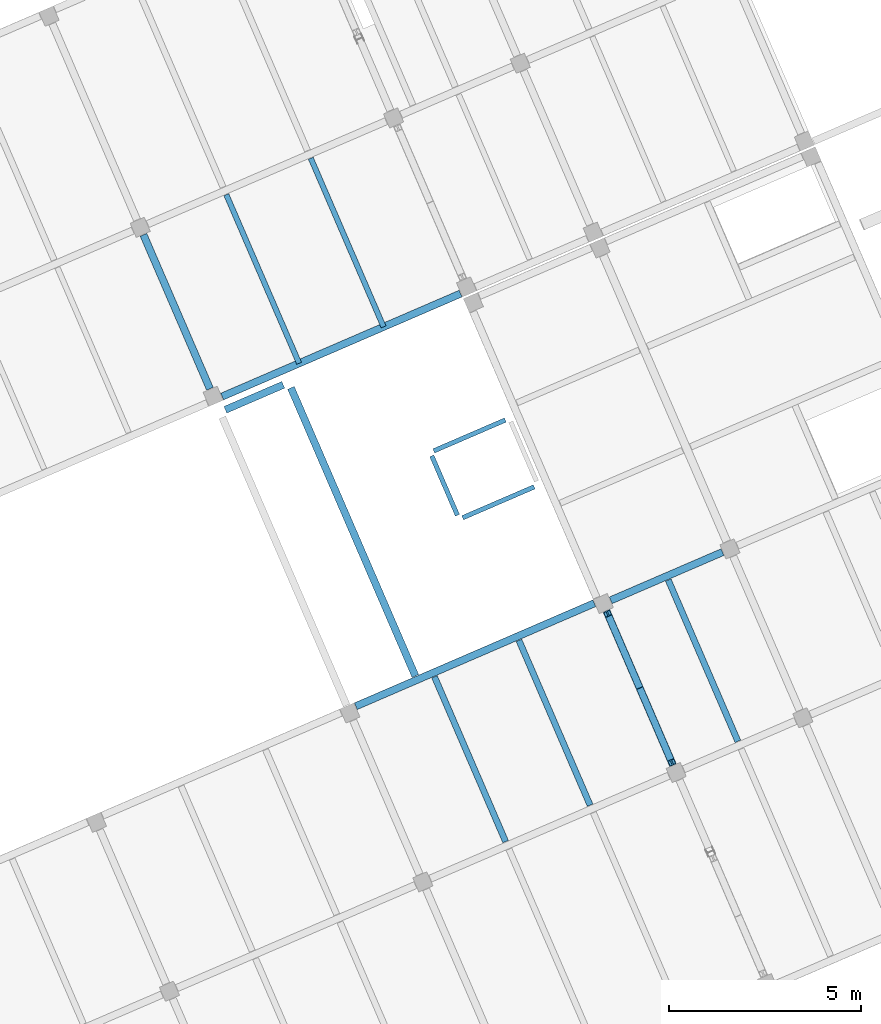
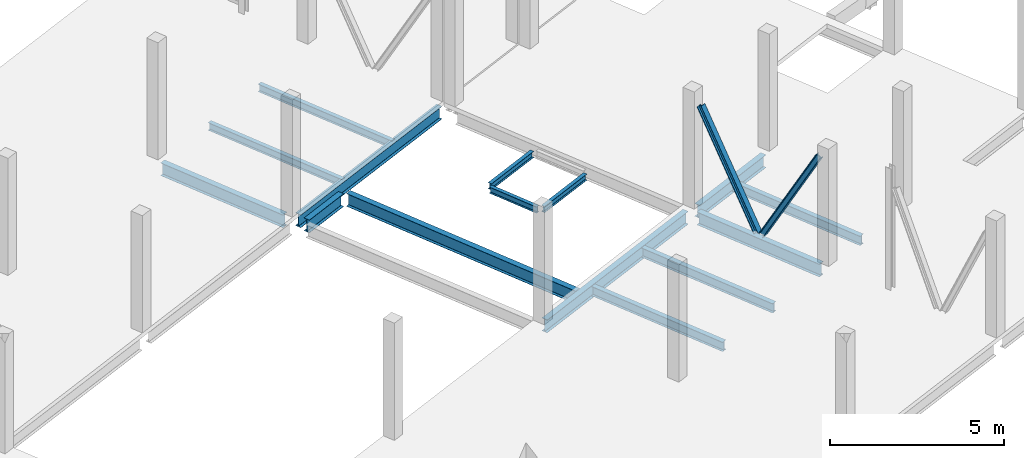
# One storey, part 11 of 24: 15 beams, 2 members.
"""IFC4 building model written with IfcOpenShell, lengths in metres."""

from ifc_helpers import new_model, entity, si_unit, converted_unit, derived_unit, direction, frame, origin, place, context, subcontext, project, spatial, line, arc, indexed_curve, outline, extrude, source, transform, mapped, material, type_object, type_shapes, element, save


model = new_model("IFC4")

# Units and contexts
model_context = context("Model", 3, precision=1e-05, world=origin(), true_north=direction((6.12323399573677e-17, 1.0)))
body_context = subcontext(model_context, "Body", "Model", "MODEL_VIEW")
ifc_project = project(units=[si_unit("LENGTHUNIT", "METRE"), si_unit("AREAUNIT", "SQUARE_METRE"), si_unit("VOLUMEUNIT", "CUBIC_METRE"), converted_unit("PLANEANGLEUNIT", "DEGREE", entity("IfcPlaneAngleMeasure", 0.0174532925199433), si_unit("PLANEANGLEUNIT", "RADIAN"), dimensions=[0, 0, 0, 0, 0, 0, 0]), si_unit("MASSUNIT", "GRAM", prefix="KILO"), derived_unit("MOMENTOFINERTIAUNIT", [(si_unit("LENGTHUNIT", "METRE"), 4)]), derived_unit("LINEARFORCEUNIT", [(si_unit("MASSUNIT", "GRAM", prefix="KILO"), 1), (si_unit("TIMEUNIT", "SECOND"), -2)]), derived_unit("WARPINGCONSTANTUNIT", [(si_unit("LENGTHUNIT", "METRE"), 6)]), derived_unit("THERMALTRANSMITTANCEUNIT", [(si_unit("MASSUNIT", "GRAM", prefix="KILO"), 1), (si_unit("THERMODYNAMICTEMPERATUREUNIT", "KELVIN"), -1), (si_unit("TIMEUNIT", "SECOND"), -3)]), derived_unit("USERDEFINED", [(si_unit("MASSUNIT", "GRAM", prefix="KILO"), 1), (si_unit("TIMEUNIT", "SECOND"), -2), (si_unit("THERMODYNAMICTEMPERATUREUNIT", "KELVIN"), -1)]), derived_unit("THERMALRESISTANCEUNIT", [(si_unit("MASSUNIT", "GRAM", prefix="KILO"), -1), (si_unit("TIMEUNIT", "SECOND"), 3), (si_unit("THERMODYNAMICTEMPERATUREUNIT", "KELVIN"), 1)])], contexts=[model_context])

# Site, building, storey
site_placement = place(None, origin())
site = spatial("IfcSite", under=ifc_project, at=site_placement, Name="Default", CompositionType="ELEMENT")
building_placement = place(site_placement, frame((12.6613425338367, -82.5732315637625, 317.15), z_axis=(0.0, 0.0, 1.0), x_axis=(-0.396377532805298, 0.918087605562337, 0.0)))
building = spatial("IfcBuilding", under=site, at=building_placement, Name="CESFAM Coyhaique", CompositionType="ELEMENT")
storey_placement = place(building_placement, frame((0.0, 0.0, 4.20000000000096)))
storey = spatial("IfcBuildingStorey", under=building, at=storey_placement, Name="Nivel 2", CompositionType="ELEMENT", Elevation=4.20000000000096)

# Beams
ifc_material = material(Name="Steel, 45-345", Category="Metal")
beam_type_1 = type_object("IfcBeamType", Name="M_W Shapes:W450X190mm", PredefinedType="BEAM", material=ifc_material)
shared_shape_1 = source(origin(), body_context, "Body", "SweptSolid", [
    extrude(outline(indexed_curve([(-0.225, -0.0950000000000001), (-0.215350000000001, -0.0949999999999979), (-0.21535, -0.0105699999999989), (-0.213109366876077, -0.00516063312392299), (-0.2077, -0.00291999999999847), (0.207699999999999, -0.00291999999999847), (0.213109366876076, -0.00516063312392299), (0.215349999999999, -0.0105699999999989), (0.215349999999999, -0.0950000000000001), (0.225, -0.0950000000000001), (0.225, 0.0950000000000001), (0.215349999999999, 0.0950000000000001), (0.215349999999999, 0.0105700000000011), (0.213109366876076, 0.00516063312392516), (0.207699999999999, 0.00292000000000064), (-0.2077, 0.00292000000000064), (-0.213109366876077, 0.00516063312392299), (-0.215350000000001, 0.0105700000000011), (-0.215350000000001, 0.0950000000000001), (-0.225, 0.0950000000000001)], segments=[line(1, 2, 3), arc(3, 4, 5), line(5, 6), arc(6, 7, 8), line(8, 9, 10, 11, 12, 13), arc(13, 14, 15), line(15, 16), arc(16, 17, 18), line(18, 19, 20, 1)], self_intersect=False)), frame((10.3815534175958, -11.5971495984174, 3.82500000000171), z_axis=(1.0, 0.0, 0.0), x_axis=(0.0, 0.0, -1.0)), (0.0, 0.0, 1.0), 4.3746),
])
type_shapes(beam_type_1, [shared_shape_1])
beam_1_placement = place(storey_placement, frame((0.0, 0.0, -4.20000000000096)))
element("IfcBeam", 1, at=beam_1_placement, inside=storey, type_object=beam_type_1, Name="M_W Shapes:W450X190mm", ObjectType="M_W Shapes:W450X190mm", PredefinedType="BEAM", context=body_context, shape_type="MappedRepresentation", body=[
    mapped(shared_shape_1, transform((0.0, 0.0, 0.0), scale=1.0)),
])
beam_type_2 = type_object("IfcBeamType", Name="M_W Shapes:W450X190mm", PredefinedType="BEAM", material=ifc_material)
shared_shape_2 = source(origin(), body_context, "Body", "SweptSolid", [
    extrude(outline(indexed_curve([(-0.225, -0.0950000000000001), (-0.215350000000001, -0.0950000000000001), (-0.21535, -0.01057), (-0.213109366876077, -0.00516063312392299), (-0.2077, -0.00291999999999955), (0.207699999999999, -0.00292000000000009), (0.213109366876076, -0.00516063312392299), (0.215349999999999, -0.01057), (0.215349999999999, -0.0950000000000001), (0.225, -0.0950000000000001), (0.225, 0.0950000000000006), (0.215349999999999, 0.0950000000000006), (0.215349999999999, 0.0105700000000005), (0.213109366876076, 0.00516063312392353), (0.207699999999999, 0.00292000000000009), (-0.2077, 0.00292000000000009), (-0.213109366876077, 0.00516063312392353), (-0.215350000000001, 0.0105700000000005), (-0.215350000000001, 0.0949999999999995), (-0.225, 0.0950000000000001)], segments=[line(1, 2, 3), arc(3, 4, 5), line(5, 6), arc(6, 7, 8), line(8, 9, 10, 11, 12, 13), arc(13, 14, 15), line(15, 16), arc(16, 17, 18), line(18, 19, 20, 1)], self_intersect=False)), frame((24.1815534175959, -4.39714959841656, 3.82500000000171), z_axis=(1.0, 0.0, 0.0), x_axis=(0.0, 0.0, -1.0)), (0.0, 0.0, 1.0), 4.3746),
])
type_shapes(beam_type_2, [shared_shape_2])
beam_2_placement = place(storey_placement, frame((0.0, 0.0, -4.20000000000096)))
element("IfcBeam", 2, at=beam_2_placement, inside=storey, type_object=beam_type_2, Name="M_W Shapes:W450X190mm", ObjectType="M_W Shapes:W450X190mm", PredefinedType="BEAM", context=body_context, shape_type="MappedRepresentation", body=[
    mapped(shared_shape_2, transform((0.0, 0.0, 0.0), scale=1.0)),
])
beam_type_3 = type_object("IfcBeamType", Name="M_W Shapes:W450X190mm", PredefinedType="BEAM", material=ifc_material)
shared_shape_3 = source(origin(), body_context, "Body", "SweptSolid", [
    extrude(outline(indexed_curve([(-0.0950000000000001, -0.225000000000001), (0.0950000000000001, -0.225000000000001), (0.0950000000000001, -0.21535), (0.0105700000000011, -0.21535), (0.00516063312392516, -0.213109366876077), (0.00292000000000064, -0.2077), (0.00292000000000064, 0.207699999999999), (0.00516063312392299, 0.213109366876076), (0.0105700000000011, 0.21535), (0.0950000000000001, 0.21535), (0.0950000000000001, 0.224999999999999), (-0.0950000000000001, 0.224999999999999), (-0.0949999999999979, 0.21535), (-0.0105699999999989, 0.215349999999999), (-0.00516063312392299, 0.213109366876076), (-0.00291999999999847, 0.207699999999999), (-0.00291999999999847, -0.2077), (-0.00516063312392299, -0.213109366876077), (-0.0105699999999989, -0.21535), (-0.0950000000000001, -0.21535)], segments=[line(1, 2, 3, 4), arc(4, 5, 6), line(6, 7), arc(7, 8, 9), line(9, 10, 11, 12, 13, 14), arc(14, 15, 16), line(16, 17), arc(17, 18, 19), line(19, 20, 1)], self_intersect=False)), frame((15.0688534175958, -11.384449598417, 3.82500000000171), z_axis=(0.0, 1.0, 0.0), x_axis=(-1.0, 0.0, 0.0)), (0.0, 0.0, 1.0), 6.7746),
])
type_shapes(beam_type_3, [shared_shape_3])
beam_3_placement = place(storey_placement, frame((0.0, 0.0, -4.20000000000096)))
element("IfcBeam", 3, at=beam_3_placement, inside=storey, type_object=beam_type_3, Name="M_W Shapes:W450X190mm", ObjectType="M_W Shapes:W450X190mm", PredefinedType="BEAM", context=body_context, shape_type="MappedRepresentation", body=[
    mapped(shared_shape_3, transform((0.0, 0.0, 0.0), scale=1.0)),
])
beam_type_4 = type_object("IfcBeamType", Name="M_W Shapes:W450X190mm", PredefinedType="BEAM", material=ifc_material)
shared_shape_4 = source(origin(), body_context, "Body", "SweptSolid", [
    extrude(outline(indexed_curve([(-0.0950000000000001, -0.225000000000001), (0.0950000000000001, -0.225000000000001), (0.0950000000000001, -0.21535), (0.0105699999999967, -0.21535), (0.00516063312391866, -0.213109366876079), (0.00291999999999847, -0.2077), (0.00291999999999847, 0.207699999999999), (0.00516063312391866, 0.213109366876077), (0.0105700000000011, 0.21535), (0.0950000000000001, 0.21535), (0.0950000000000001, 0.224999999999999), (-0.0950000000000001, 0.224999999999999), (-0.0950000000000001, 0.21535), (-0.0105700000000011, 0.215349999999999), (-0.00516063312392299, 0.213109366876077), (-0.0029200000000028, 0.207699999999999), (-0.0029200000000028, -0.2077), (-0.00516063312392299, -0.213109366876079), (-0.0105700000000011, -0.21535), (-0.0950000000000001, -0.21535)], segments=[line(1, 2, 3, 4), arc(4, 5, 6), line(6, 7), arc(7, 8, 9), line(9, 10, 11, 12, 13, 14), arc(14, 15, 16), line(16, 17), arc(17, 18, 19), line(19, 20, 1)], self_intersect=False)), frame((23.8688534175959, -11.384449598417, 3.82500000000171), z_axis=(0.0, 1.0, 0.0), x_axis=(-1.0, 0.0, 0.0)), (0.0, 0.0, 1.0), 6.7746),
])
type_shapes(beam_type_4, [shared_shape_4])
beam_4_placement = place(storey_placement, frame((0.0, 0.0, -4.20000000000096)))
element("IfcBeam", 4, at=beam_4_placement, inside=storey, type_object=beam_type_4, Name="M_W Shapes:W450X190mm", ObjectType="M_W Shapes:W450X190mm", PredefinedType="BEAM", context=body_context, shape_type="MappedRepresentation", body=[
    mapped(shared_shape_4, transform((0.0, 0.0, 0.0), scale=1.0)),
])
beam_type_5 = type_object("IfcBeamType", Name="M_W Shapes:W450X190mm", PredefinedType="BEAM", material=ifc_material)
shared_shape_5 = source(origin(), body_context, "Body", "SweptSolid", [
    extrude(outline(indexed_curve([(-0.0950000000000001, -0.225000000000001), (0.0950000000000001, -0.225000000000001), (0.0950000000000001, -0.21535), (0.0105700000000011, -0.21535), (0.00516063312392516, -0.213109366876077), (0.00292000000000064, -0.2077), (0.00292000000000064, 0.207699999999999), (0.00516063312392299, 0.213109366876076), (0.0105700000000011, 0.21535), (0.0950000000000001, 0.21535), (0.0950000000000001, 0.224999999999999), (-0.0950000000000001, 0.224999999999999), (-0.0949999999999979, 0.21535), (-0.0105699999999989, 0.215349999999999), (-0.00516063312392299, 0.213109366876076), (-0.00291999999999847, 0.207699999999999), (-0.00291999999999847, -0.2077), (-0.00516063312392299, -0.213109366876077), (-0.0105699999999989, -0.21535), (-0.0950000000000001, -0.21535)], segments=[line(1, 2, 3, 4), arc(4, 5, 6), line(6, 7), arc(7, 8, 9), line(9, 10, 11, 12, 13, 14), arc(14, 15, 16), line(16, 17), arc(17, 18, 19), line(19, 20, 1)], self_intersect=False)), frame((14.9688534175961, -14.9844495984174, 3.82500000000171), z_axis=(0.0, 1.0, 0.0), x_axis=(-1.0, 0.0, 0.0)), (0.0, 0.0, 1.0), 3.1746),
])
type_shapes(beam_type_5, [shared_shape_5])
beam_5_placement = place(storey_placement, frame((0.0, 0.0, -4.20000000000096)))
element("IfcBeam", 5, at=beam_5_placement, inside=storey, type_object=beam_type_5, Name="M_W Shapes:W450X190mm", ObjectType="M_W Shapes:W450X190mm", PredefinedType="BEAM", context=body_context, shape_type="MappedRepresentation", body=[
    mapped(shared_shape_5, transform((0.0, 0.0, 0.0), scale=1.0)),
])

# Members
member_type_1 = type_object("IfcMemberType", Name="M_Double C-Channel:doble T HEB 180", PredefinedType="BRACE", material=ifc_material)
shared_shape_6 = source(origin(), body_context, "Body", "SweptSolid", [
    extrude(outline(indexed_curve([(-0.045425, -0.0899999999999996), (0.0445749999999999, -0.0899999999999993), (0.0397422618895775, -0.0783327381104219), (0.0280749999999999, -0.0735000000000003), (-0.0272249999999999, -0.0647413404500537), (-0.0272249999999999, 0.0647413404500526), (0.0280750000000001, 0.0734999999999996), (0.0397422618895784, 0.078332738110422), (0.044575, 0.0900000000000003), (-0.045425, 0.0900000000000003)], segments=[line(1, 2), arc(2, 3, 4), line(4, 5, 6, 7), arc(7, 8, 9), line(9, 10, 1)], self_intersect=False)), frame((-2.4277149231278, -0.0454249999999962, 0.0), z_axis=(1.0, 0.0, 0.0), x_axis=(0.0, -1.0, 0.0)), (0.0, 0.0, 1.0), 4.1299440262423),
    extrude(outline(indexed_curve([(-0.0899999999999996, -0.045425), (0.0900000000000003, -0.045425), (0.0900000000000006, 0.044575), (0.0783327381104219, 0.0397422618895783), (0.0734999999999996, 0.028075), (0.0647413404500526, -0.0272249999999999), (-0.0647413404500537, -0.0272249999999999), (-0.0735000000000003, 0.0280749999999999), (-0.0783327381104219, 0.0397422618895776), (-0.0899999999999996, 0.0445749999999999)], segments=[line(1, 2, 3), arc(3, 4, 5), line(5, 6, 7, 8), arc(8, 9, 10), line(10, 1)], self_intersect=False)), frame((-2.4277149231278, 0.0454250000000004, 0.0), z_axis=(1.0, 0.0, 0.0), x_axis=(0.0, 0.0, -1.0)), (0.0, 0.0, 1.0), 4.1299440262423),
])
type_shapes(member_type_1, [shared_shape_6])
member_1_placement = place(storey_placement, frame((11.2904855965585, -11.5971495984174, 2.0807452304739), z_axis=(0.87075356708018, 0.0, 0.491719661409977), x_axis=(-0.491719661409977, 0.0, 0.87075356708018)))
element("IfcMember", 6, at=member_1_placement, inside=storey, type_object=member_type_1, Name="M_Double C-Channel:doble T HEB 180", ObjectType="M_Double C-Channel:doble T HEB 180", PredefinedType="BRACE", context=body_context, shape_type="MappedRepresentation", body=[
    mapped(shared_shape_6, transform((0.0, 0.0, 0.0), scale=1.0)),
])
member_type_2 = type_object("IfcMemberType", Name="M_Double C-Channel:doble T HEB 180", PredefinedType="BRACE", material=ifc_material)
shared_shape_7 = source(origin(), body_context, "Body", "SweptSolid", [
    extrude(outline(indexed_curve([(-0.0899999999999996, -0.045425), (0.0900000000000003, -0.045425), (0.0900000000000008, 0.044575), (0.078332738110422, 0.0397422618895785), (0.0734999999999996, 0.028075), (0.0647413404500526, -0.0272249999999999), (-0.0647413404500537, -0.0272249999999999), (-0.0735000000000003, 0.0280749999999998), (-0.0783327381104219, 0.0397422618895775), (-0.0899999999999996, 0.0445749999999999)], segments=[line(1, 2, 3), arc(3, 4, 5), line(5, 6, 7, 8), arc(8, 9, 10), line(10, 1)], self_intersect=False)), frame((-2.42771492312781, 0.0454249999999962, 0.0), z_axis=(1.0, 0.0, 0.0), x_axis=(0.0, 0.0, -1.0)), (0.0, 0.0, 1.0), 4.1299440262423),
    extrude(outline(indexed_curve([(-0.045425, -0.0899999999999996), (0.0445749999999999, -0.0899999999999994), (0.0397422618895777, -0.078332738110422), (0.0280749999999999, -0.0735000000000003), (-0.0272249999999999, -0.0647413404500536), (-0.0272249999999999, 0.0647413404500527), (0.0280749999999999, 0.0734999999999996), (0.0397422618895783, 0.0783327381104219), (0.044575, 0.0900000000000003), (-0.045425, 0.0900000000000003)], segments=[line(1, 2), arc(2, 3, 4), line(4, 5, 6, 7), arc(7, 8, 9), line(9, 10, 1)], self_intersect=False)), frame((-2.42771492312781, -0.0454250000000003, 0.0), z_axis=(1.0, 0.0, 0.0), x_axis=(0.0, -1.0, 0.0)), (0.0, 0.0, 1.0), 4.1299440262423),
])
type_shapes(member_type_2, [shared_shape_7])
member_2_placement = place(storey_placement, frame((13.847221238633, -11.5971495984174, 2.0807452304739), z_axis=(-0.870753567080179, 0.0, 0.491719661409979), x_axis=(0.491719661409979, 0.0, 0.870753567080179)))
element("IfcMember", 7, at=member_2_placement, inside=storey, type_object=member_type_2, Name="M_Double C-Channel:doble T HEB 180", ObjectType="M_Double C-Channel:doble T HEB 180", PredefinedType="BRACE", context=body_context, shape_type="MappedRepresentation", body=[
    mapped(shared_shape_7, transform((0.0, 0.0, 0.0), scale=1.0)),
])

# Beams
beam_type_6 = type_object("IfcBeamType", Name="M_W Shapes:W330X160mm", PredefinedType="BEAM", material=ifc_material)
shared_shape_8 = source(origin(), body_context, "Body", "SweptSolid", [
    extrude(outline(indexed_curve([(-0.164999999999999, -0.0799999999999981), (-0.15535, -0.0799999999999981), (-0.15535, -0.0105699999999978), (-0.153109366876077, -0.00516063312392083), (-0.1477, -0.00291999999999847), (0.1477, -0.00291999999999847), (0.153109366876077, -0.00516063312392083), (0.15535, -0.0105699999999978), (0.15535, -0.0799999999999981), (0.165, -0.0799999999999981), (0.165000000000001, 0.0800000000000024), (0.15535, 0.0800000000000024), (0.15535, 0.0105700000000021), (0.153109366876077, 0.00516063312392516), (0.1477, 0.00292000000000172), (-0.1477, 0.0029200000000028), (-0.153109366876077, 0.00516063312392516), (-0.15535, 0.0105700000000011), (-0.15535, 0.0800000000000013), (-0.164999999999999, 0.0800000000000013)], segments=[line(1, 2, 3), arc(3, 4, 5), line(5, 6), arc(6, 7, 8), line(8, 9, 10, 11, 12, 13), arc(13, 14, 15), line(15, 16), arc(16, 17, 18), line(18, 19, 20, 1)], self_intersect=False)), frame((10.2765534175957, -6.7971495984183, 3.88500000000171), z_axis=(1.0, 0.0, 0.0), x_axis=(0.0, 0.0, -1.0)), (0.0, 0.0, 1.0), 4.6846),
])
type_shapes(beam_type_6, [shared_shape_8])
beam_6_placement = place(storey_placement, frame((0.0, 0.0, -4.20000000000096)))
element("IfcBeam", 8, at=beam_6_placement, inside=storey, type_object=beam_type_6, Name="M_W Shapes:W330X160mm", ObjectType="M_W Shapes:W330X160mm", PredefinedType="BEAM", context=body_context, shape_type="MappedRepresentation", body=[
    mapped(shared_shape_8, transform((0.0, 0.0, 0.0), scale=1.0)),
])
beam_type_7 = type_object("IfcBeamType", Name="M_W Shapes:W330X160mm", PredefinedType="BEAM", material=ifc_material)
shared_shape_9 = source(origin(), body_context, "Body", "SweptSolid", [
    extrude(outline(indexed_curve([(-0.164999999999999, -0.0800000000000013), (-0.15535, -0.0800000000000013), (-0.15535, -0.0105700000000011), (-0.153109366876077, -0.00516063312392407), (-0.1477, -0.00292000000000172), (0.1477, -0.00292000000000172), (0.153109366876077, -0.00516063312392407), (0.15535, -0.0105700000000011), (0.15535, -0.0800000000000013), (0.165, -0.0800000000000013), (0.165000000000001, 0.0799999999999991), (0.15535, 0.0799999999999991), (0.15535, 0.0105699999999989), (0.153109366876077, 0.00516063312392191), (0.1477, 0.00291999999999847), (-0.1477, 0.00291999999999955), (-0.153109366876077, 0.00516063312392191), (-0.15535, 0.0105699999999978), (-0.15535, 0.0799999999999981), (-0.164999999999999, 0.0799999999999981)], segments=[line(1, 2, 3), arc(3, 4, 5), line(5, 6), arc(6, 7, 8), line(8, 9, 10, 11, 12, 13), arc(13, 14, 15), line(15, 16), arc(16, 17, 18), line(18, 19, 20, 1)], self_intersect=False)), frame((10.2765534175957, -9.19714959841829, 3.88500000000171), z_axis=(1.0, 0.0, 0.0), x_axis=(0.0, 0.0, -1.0)), (0.0, 0.0, 1.0), 4.6846),
])
type_shapes(beam_type_7, [shared_shape_9])
beam_7_placement = place(storey_placement, frame((0.0, 0.0, -4.20000000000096)))
element("IfcBeam", 9, at=beam_7_placement, inside=storey, type_object=beam_type_7, Name="M_W Shapes:W330X160mm", ObjectType="M_W Shapes:W330X160mm", PredefinedType="BEAM", context=body_context, shape_type="MappedRepresentation", body=[
    mapped(shared_shape_9, transform((0.0, 0.0, 0.0), scale=1.0)),
])
beam_type_8 = type_object("IfcBeamType", Name="M_W Shapes:W330X160mm", PredefinedType="BEAM", material=ifc_material)
shared_shape_10 = source(origin(), body_context, "Body", "SweptSolid", [
    extrude(outline(indexed_curve([(-0.164999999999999, -0.0799999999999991), (-0.15535, -0.0799999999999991), (-0.15535, -0.0105699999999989), (-0.153109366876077, -0.00516063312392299), (-0.1477, -0.00291999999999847), (0.1477, -0.00291999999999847), (0.153109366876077, -0.00516063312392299), (0.15535, -0.0105700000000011), (0.15535, -0.0799999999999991), (0.165, -0.0799999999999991), (0.165000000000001, 0.0800000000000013), (0.15535, 0.0799999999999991), (0.15535, 0.0105700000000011), (0.153109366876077, 0.00516063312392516), (0.1477, 0.00292000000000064), (-0.1477, 0.00292000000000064), (-0.153109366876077, 0.00516063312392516), (-0.15535, 0.0105700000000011), (-0.15535, 0.0800000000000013), (-0.164999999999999, 0.0799999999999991)], segments=[line(1, 2, 3), arc(3, 4, 5), line(5, 6), arc(6, 7, 8), line(8, 9, 10, 11, 12, 13), arc(13, 14, 15), line(15, 16), arc(16, 17, 18), line(18, 19, 20, 1)], self_intersect=False)), frame((10.2765534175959, -13.3971495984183, 3.88500000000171), z_axis=(1.0, 0.0, 0.0), x_axis=(0.0, 0.0, -1.0)), (0.0, 0.0, 1.0), 4.5846),
])
type_shapes(beam_type_8, [shared_shape_10])
beam_8_placement = place(storey_placement, frame((0.0, 0.0, -4.20000000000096)))
element("IfcBeam", 10, at=beam_8_placement, inside=storey, type_object=beam_type_8, Name="M_W Shapes:W330X160mm", ObjectType="M_W Shapes:W330X160mm", PredefinedType="BEAM", context=body_context, shape_type="MappedRepresentation", body=[
    mapped(shared_shape_10, transform((0.0, 0.0, 0.0), scale=1.0)),
])
beam_type_9 = type_object("IfcBeamType", Name="M_W Shapes:W450X190mm", PredefinedType="BEAM", material=ifc_material)
shared_shape_11 = source(origin(), body_context, "Body", "SweptSolid", [
    extrude(outline(indexed_curve([(-0.225, -0.0950000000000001), (-0.215350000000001, -0.0950000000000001), (-0.215350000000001, -0.01057), (-0.213109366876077, -0.00516063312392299), (-0.2077, -0.00292000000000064), (0.207699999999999, -0.00292000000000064), (0.213109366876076, -0.00516063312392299), (0.215349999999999, -0.01057), (0.215349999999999, -0.0950000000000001), (0.225, -0.0950000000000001), (0.225, 0.0950000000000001), (0.215349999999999, 0.0950000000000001), (0.21535, 0.01057), (0.213109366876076, 0.00516063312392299), (0.207699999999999, 0.00291999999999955), (-0.2077, 0.00291999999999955), (-0.213109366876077, 0.00516063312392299), (-0.215350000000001, 0.01057), (-0.215350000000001, 0.094999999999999), (-0.225, 0.094999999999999)], segments=[line(1, 2, 3), arc(3, 4, 5), line(5, 6), arc(6, 7, 8), line(8, 9, 10, 11, 12, 13), arc(13, 14, 15), line(15, 16), arc(16, 17, 18), line(18, 19, 20, 1)], self_intersect=False)), frame((15.1765534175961, -6.34714871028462, 3.82500000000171), z_axis=(1.0, 0.0, 0.0), x_axis=(0.0, 0.0, -1.0)), (0.0, 0.0, 1.0), 8.1896),
])
type_shapes(beam_type_9, [shared_shape_11])
beam_9_placement = place(storey_placement, frame((0.0, 0.0, -4.20000000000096)))
element("IfcBeam", 11, at=beam_9_placement, inside=storey, type_object=beam_type_9, Name="M_W Shapes:W450X190mm", ObjectType="M_W Shapes:W450X190mm", PredefinedType="BEAM", context=body_context, shape_type="MappedRepresentation", body=[
    mapped(shared_shape_11, transform((0.0, 0.0, 0.0), scale=1.0)),
])
beam_type_10 = type_object("IfcBeamType", Name="M_W Shapes:W450X190mm", PredefinedType="BEAM", material=ifc_material)
shared_shape_12 = source(origin(), body_context, "Body", "SweptSolid", [
    extrude(outline(indexed_curve([(-0.0949999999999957, -0.225000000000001), (0.0950000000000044, -0.225000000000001), (0.0950000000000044, -0.21535), (0.0105700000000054, -0.21535), (0.00516063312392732, -0.213109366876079), (0.0029200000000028, -0.2077), (0.00292000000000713, 0.207699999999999), (0.00516063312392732, 0.213109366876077), (0.0105700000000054, 0.21535), (0.0950000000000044, 0.21535), (0.0950000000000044, 0.224999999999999), (-0.0949999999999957, 0.224999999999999), (-0.0949999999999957, 0.21535), (-0.0105699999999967, 0.215349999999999), (-0.00516063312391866, 0.213109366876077), (-0.00291999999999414, 0.207699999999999), (-0.00291999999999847, -0.2077), (-0.00516063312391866, -0.213109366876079), (-0.0105699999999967, -0.21535), (-0.0949999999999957, -0.21535)], segments=[line(1, 2, 3, 4), arc(4, 5, 6), line(6, 7), arc(7, 8, 9), line(9, 10, 11, 12, 13, 14), arc(14, 15, 16), line(16, 17), arc(17, 18, 19), line(19, 20, 1)], self_intersect=False)), frame((23.5188534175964, -6.19439915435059, 3.82500000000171), z_axis=(0.0, 1.0, 0.0), x_axis=(-1.0, 0.0, 0.0)), (0.0, 0.0, 1.0), 1.6445),
])
type_shapes(beam_type_10, [shared_shape_12])
beam_10_placement = place(storey_placement, frame((0.0, 0.0, -4.20000000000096)))
element("IfcBeam", 12, at=beam_10_placement, inside=storey, type_object=beam_type_10, Name="M_W Shapes:W450X190mm", ObjectType="M_W Shapes:W450X190mm", PredefinedType="BEAM", context=body_context, shape_type="MappedRepresentation", body=[
    mapped(shared_shape_12, transform((0.0, 0.0, 0.0), scale=1.0)),
])
beam_type_11 = type_object("IfcBeamType", Name="M_W Shapes:W270X140mm", PredefinedType="BEAM", material=ifc_material)
shared_shape_13 = source(origin(), body_context, "Body", "SweptSolid", [
    extrude(outline(indexed_curve([(-0.135, -0.0700000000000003), (-0.125350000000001, -0.0700000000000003), (-0.125350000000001, -0.01057), (-0.123109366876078, -0.00516063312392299), (-0.117700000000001, -0.00292000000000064), (0.117699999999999, -0.00292000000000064), (0.123109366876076, -0.00516063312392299), (0.125349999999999, -0.01057), (0.125349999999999, -0.0700000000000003), (0.135, -0.0700000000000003), (0.135, 0.0700000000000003), (0.125349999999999, 0.0700000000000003), (0.12535, 0.01057), (0.123109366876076, 0.00516063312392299), (0.117699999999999, 0.00291999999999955), (-0.117700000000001, 0.00291999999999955), (-0.123109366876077, 0.00516063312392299), (-0.125350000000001, 0.01057), (-0.125350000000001, 0.0699999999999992), (-0.135, 0.0699999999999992)], segments=[line(1, 2, 3), arc(3, 4, 5), line(5, 6), arc(6, 7, 8), line(8, 9, 10, 11, 12, 13), arc(13, 14, 15), line(15, 16), arc(16, 17, 18), line(18, 19, 20, 1)], self_intersect=False)), frame((23.8688534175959, -9.19708262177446, 3.91500000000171), z_axis=(1.0, 0.0, 0.0), x_axis=(0.0, 0.0, -1.0)), (0.0, 0.0, 1.0), 4.7923),
])
type_shapes(beam_type_11, [shared_shape_13])
beam_11_placement = place(storey_placement, frame((0.0, 0.0, -4.20000000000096)))
element("IfcBeam", 13, at=beam_11_placement, inside=storey, type_object=beam_type_11, Name="M_W Shapes:W270X140mm", ObjectType="M_W Shapes:W270X140mm", PredefinedType="BEAM", context=body_context, shape_type="MappedRepresentation", body=[
    mapped(shared_shape_13, transform((0.0, 0.0, 0.0), scale=1.0)),
])
beam_type_12 = type_object("IfcBeamType", Name="M_W Shapes:W270X140mm", PredefinedType="BEAM", material=ifc_material)
shared_shape_14 = source(origin(), body_context, "Body", "SweptSolid", [
    extrude(outline(indexed_curve([(-0.135, -0.0699999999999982), (-0.125350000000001, -0.0699999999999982), (-0.125350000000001, -0.0105699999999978), (-0.123109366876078, -0.00516063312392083), (-0.117700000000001, -0.00291999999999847), (0.117699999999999, -0.00291999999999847), (0.123109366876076, -0.00516063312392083), (0.125349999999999, -0.0105699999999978), (0.125349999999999, -0.0699999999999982), (0.135, -0.0699999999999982), (0.135, 0.0700000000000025), (0.125349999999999, 0.0700000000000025), (0.12535, 0.0105700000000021), (0.123109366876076, 0.00516063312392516), (0.117699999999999, 0.00292000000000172), (-0.117700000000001, 0.00292000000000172), (-0.123109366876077, 0.00516063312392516), (-0.125350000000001, 0.0105700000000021), (-0.125350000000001, 0.0700000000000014), (-0.135, 0.0700000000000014)], segments=[line(1, 2, 3), arc(3, 4, 5), line(5, 6), arc(6, 7, 8), line(8, 9, 10, 11, 12, 13), arc(13, 14, 15), line(15, 16), arc(16, 17, 18), line(18, 19, 20, 1)], self_intersect=False)), frame((23.8688534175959, -6.79708262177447, 3.91500000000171), z_axis=(1.0, 0.0, 0.0), x_axis=(0.0, 0.0, -1.0)), (0.0, 0.0, 1.0), 4.7923),
])
type_shapes(beam_type_12, [shared_shape_14])
beam_12_placement = place(storey_placement, frame((0.0, 0.0, -4.20000000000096)))
element("IfcBeam", 14, at=beam_12_placement, inside=storey, type_object=beam_type_12, Name="M_W Shapes:W270X140mm", ObjectType="M_W Shapes:W270X140mm", PredefinedType="BEAM", context=body_context, shape_type="MappedRepresentation", body=[
    mapped(shared_shape_14, transform((0.0, 0.0, 0.0), scale=1.0)),
])
beam_type_13 = type_object("IfcBeamType", Name="M_W Shapes:W220X120mm", PredefinedType="BEAM", material=ifc_material)
shared_shape_15 = source(origin(), body_context, "Body", "SweptSolid", [
    extrude(outline(indexed_curve([(-0.109999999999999, -0.0599999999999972), (-0.100349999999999, -0.0599999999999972), (-0.10035, -0.0105699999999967), (-0.0981093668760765, -0.00516063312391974), (-0.0926999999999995, -0.00291999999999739), (0.0927, -0.00291999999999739), (0.098109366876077, -0.00516063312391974), (0.10035, -0.0105699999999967), (0.10035, -0.0599999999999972), (0.110000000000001, -0.0599999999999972), (0.110000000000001, 0.0600000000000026), (0.10035, 0.0600000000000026), (0.10035, 0.0105700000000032), (0.098109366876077, 0.00516063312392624), (0.0927, 0.0029200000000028), (-0.0926999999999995, 0.0029200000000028), (-0.098109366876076, 0.00516063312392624), (-0.100349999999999, 0.0105700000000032), (-0.100349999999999, 0.0600000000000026), (-0.109999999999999, 0.0600000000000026)], segments=[line(1, 2, 3), arc(3, 4, 5), line(5, 6), arc(6, 7, 8), line(8, 9, 10, 11, 12, 13), arc(13, 14, 15), line(15, 16), arc(16, 17, 18), line(18, 19, 20, 1)], self_intersect=False)), frame((18.5918165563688, -9.01714975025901, 3.94000000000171), z_axis=(1.0, 0.0, 0.0), x_axis=(0.0, 0.0, -1.0)), (0.0, 0.0, 1.0), 1.6871),
])
type_shapes(beam_type_13, [shared_shape_15])
beam_13_placement = place(storey_placement, frame((0.0, 0.0, -4.20000000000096)))
element("IfcBeam", 15, at=beam_13_placement, inside=storey, type_object=beam_type_13, Name="M_W Shapes:W220X120mm", ObjectType="M_W Shapes:W220X120mm", PredefinedType="BEAM", context=body_context, shape_type="MappedRepresentation", body=[
    mapped(shared_shape_15, transform((0.0, 0.0, 0.0), scale=1.0)),
])
beam_type_14 = type_object("IfcBeamType", Name="M_W Shapes:W220X120mm", PredefinedType="BEAM", material=ifc_material)
shared_shape_16 = source(origin(), body_context, "Body", "SweptSolid", [
    extrude(outline(indexed_curve([(-0.0599999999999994, -0.109999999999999), (0.0599999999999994, -0.109999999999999), (0.0599999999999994, -0.100349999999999), (0.0105700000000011, -0.100349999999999), (0.00516063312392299, -0.0981093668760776), (0.0029200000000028, -0.0926999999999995), (0.0029200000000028, 0.0927), (0.00516063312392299, 0.0981093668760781), (0.0105700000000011, 0.10035), (0.0599999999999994, 0.10035), (0.0599999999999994, 0.110000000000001), (-0.0599999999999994, 0.110000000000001), (-0.0599999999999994, 0.10035), (-0.0105699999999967, 0.100349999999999), (-0.00516063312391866, 0.0981093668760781), (-0.00291999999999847, 0.0927), (-0.00291999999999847, -0.0926999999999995), (-0.00516063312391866, -0.0981093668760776), (-0.0105699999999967, -0.100349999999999), (-0.0599999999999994, -0.100349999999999)], segments=[line(1, 2, 3, 4), arc(4, 5, 6), line(6, 7), arc(7, 8, 9), line(9, 10, 11, 12, 13, 14), arc(14, 15, 16), line(16, 17), arc(17, 18, 19), line(19, 20, 1)], self_intersect=False)), frame((20.3789296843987, -9.11714975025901, 3.94000000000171), z_axis=(0.0, -1.0, 0.0), x_axis=(-1.0, 0.0, 0.0)), (0.0, 0.0, 1.0), 2.0323),
])
type_shapes(beam_type_14, [shared_shape_16])
beam_14_placement = place(storey_placement, frame((0.0, 0.0, -4.20000000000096)))
element("IfcBeam", 16, at=beam_14_placement, inside=storey, type_object=beam_type_14, Name="M_W Shapes:W220X120mm", ObjectType="M_W Shapes:W220X120mm", PredefinedType="BEAM", context=body_context, shape_type="MappedRepresentation", body=[
    mapped(shared_shape_16, transform((0.0, 0.0, 0.0), scale=1.0)),
])
beam_type_15 = type_object("IfcBeamType", Name="M_W Shapes:W220X120mm", PredefinedType="BEAM", material=ifc_material)
shared_shape_17 = source(origin(), body_context, "Body", "SweptSolid", [
    extrude(outline(indexed_curve([(-0.0599999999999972, -0.109999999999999), (0.0600000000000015, -0.109999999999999), (0.0600000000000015, -0.100349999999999), (0.0105700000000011, -0.100349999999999), (0.00516063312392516, -0.0981093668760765), (0.00292000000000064, -0.0926999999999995), (0.00292000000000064, 0.0927), (0.00516063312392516, 0.098109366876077), (0.0105700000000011, 0.10035), (0.0600000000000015, 0.10035), (0.0600000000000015, 0.110000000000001), (-0.0599999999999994, 0.110000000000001), (-0.0599999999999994, 0.10035), (-0.0105699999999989, 0.10035), (-0.00516063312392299, 0.098109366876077), (-0.00291999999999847, 0.0927), (-0.00291999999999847, -0.0926999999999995), (-0.00516063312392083, -0.0981093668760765), (-0.0105699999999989, -0.100349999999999), (-0.0599999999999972, -0.100349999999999)], segments=[line(1, 2, 3, 4), arc(4, 5, 6), line(6, 7), arc(7, 8, 9), line(9, 10, 11, 12, 13, 14), arc(14, 15, 16), line(16, 17), arc(17, 18, 19), line(19, 20, 1)], self_intersect=False)), frame((18.4790184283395, -9.117149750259, 3.94000000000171), z_axis=(0.0, -1.0, 0.0), x_axis=(-1.0, 0.0, 0.0)), (0.0, 0.0, 1.0), 2.0323),
])
type_shapes(beam_type_15, [shared_shape_17])
beam_15_placement = place(storey_placement, frame((0.0, 0.0, -4.20000000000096)))
element("IfcBeam", 17, at=beam_15_placement, inside=storey, type_object=beam_type_15, Name="M_W Shapes:W220X120mm", ObjectType="M_W Shapes:W220X120mm", PredefinedType="BEAM", context=body_context, shape_type="MappedRepresentation", body=[
    mapped(shared_shape_17, transform((0.0, 0.0, 0.0), scale=1.0)),
])

save(model, "model.ifc")
